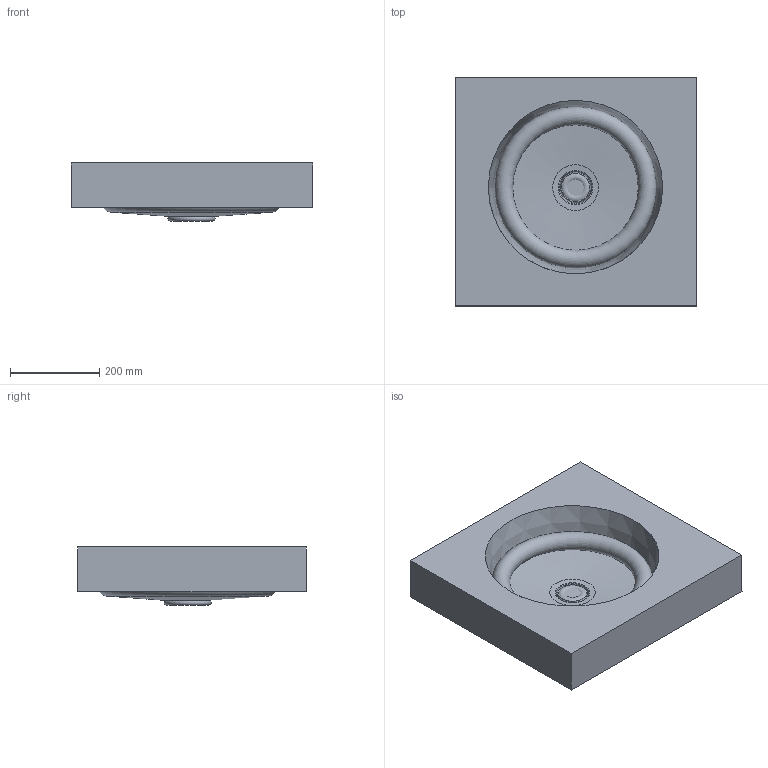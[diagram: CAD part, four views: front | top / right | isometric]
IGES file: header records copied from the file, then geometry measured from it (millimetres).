
Start section: Data from Parasolid IGES Translator 22.0.50, Copyright(c) 2006 Siemens P LM Software. All Rights Reserved.
Global section: file name: noorth-top-H 11,9 D 51,3 W 72_5300.igs; native system: By Siemens PLM Incorporated; preprocessor: XPlus GENERIC/IGES 22.0.50; author: Noname; organization: Noname; date: 20251105.215620; units: metre
Bounding box: 540 x 510 x 129.79 mm (x, y, z)
Volume: 10772847.2 mm3; surface area: 1095549.3 mm2
Topology: 3 solids, 3 shells, 43 faces, 81 edges, 48 vertices
Faces by surface type: plane 20, cone 11, cylinder 7, torus 5
Full cylindrical faces by diameter (mm): 4 x2, 34 x2, 46 x1, 64 x1
